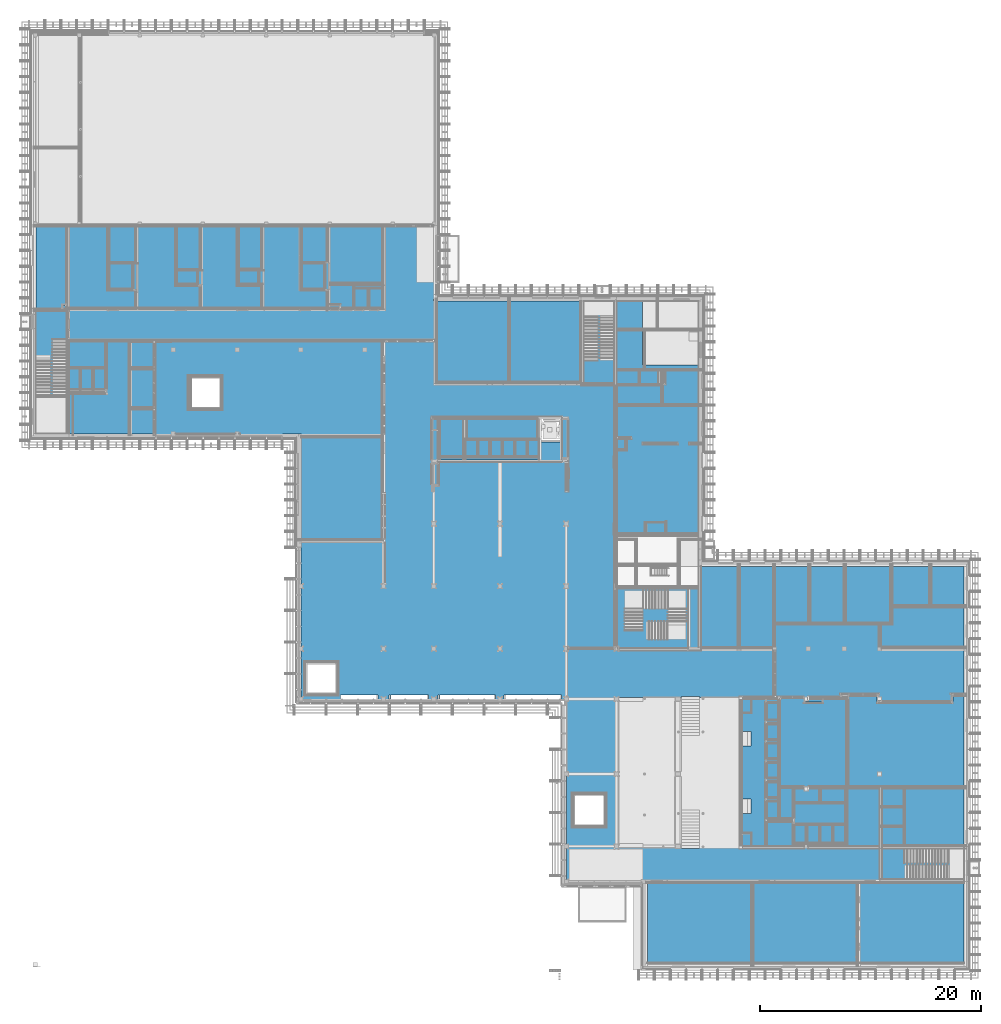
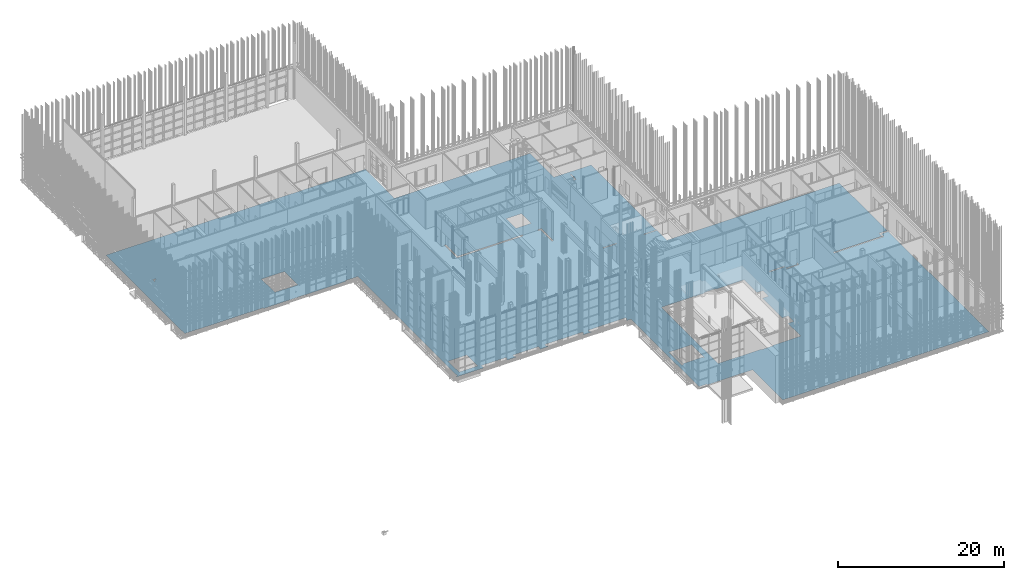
# One storey, part 164 of 260: 1 building element part, 1 element without a shape of its own.
"""IFC2X3 building model written with IfcOpenShell, lengths in millimetres."""

import ifcopenshell
import ifcopenshell.guid

model = None  # the IFC model being written
_history = None  # IfcOwnerHistory: only IFC2X3 demands one
_inside = {}  # id of a spatial element -> (the spatial element, [elements in it])
_under = {}  # id of a project, library or spatial element -> (it, [spatial elements below it])
_declared = {}  # id of a project -> (the project, [libraries it declares])
_typed = {}  # id of a type object -> (the type object, [elements of that type])
_made_of = {}  # id of a material, layer set ... -> (it, [elements and type objects made of it])


def new_model(schema):
    """Start an empty IFC model of exactly this schema.

    Asked for "IFC4X3", IfcOpenShell would pick the latest addendum, in which some entities
    have other attributes; the version numbers below select the first issue.
    IFC2X3 requires an IfcOwnerHistory on every rooted entity: one is made here for all.
    """
    global model, _history
    if schema == "IFC4X3":
        model = ifcopenshell.file(schema_version=(4, 3, 0, 0))
    else:
        model = ifcopenshell.file(schema=schema)
    _inside.clear()
    _under.clear()
    _declared.clear()
    _typed.clear()
    _made_of.clear()
    _history = None
    if model.schema == "IFC2X3":
        org = make("IfcOrganization", Name="unknown")
        user = make(
            "IfcPersonAndOrganization",
            ThePerson=make("IfcPerson", FamilyName="unknown"),
            TheOrganization=org,
        )
        app = make(
            "IfcApplication",
            ApplicationDeveloper=org,
            Version="unknown",
            ApplicationFullName="unknown",
            ApplicationIdentifier="unknown",
        )
        _history = make(
            "IfcOwnerHistory",
            OwningUser=user,
            OwningApplication=app,
            ChangeAction="ADDED",
            CreationDate=0,
        )
    return model


def make(cls, **values):
    """One entity of the class cls with the attributes given. An attribute that is None is left unset."""
    return model.create_entity(
        cls, **{name: value for name, value in values.items() if value is not None}
    )


def entity(cls, *values):
    """Any entity or typed value of the class cls, its attributes in the order of the schema. None: left unset."""
    e = model.create_entity(cls)
    for i, value in enumerate(values):
        if value is not None:
            e[i] = value
    return e


def rooted(cls, **values):
    """An entity with a GlobalId (a new one), such as an element, a storey or a relation."""
    return make(cls, GlobalId=ifcopenshell.guid.new(), OwnerHistory=_history, **values)


def si_unit(unit_type, name, prefix=None):
    """IfcSIUnit, for example si_unit("LENGTHUNIT", "METRE", prefix="MILLI")."""
    return make("IfcSIUnit", UnitType=unit_type, Prefix=prefix, Name=name)


def converted_unit(unit_type, name, factor, base, dimensions=None, offset=None):
    """IfcConversionBasedUnit, such as the inch: factor (a typed value) times the base unit."""
    return make(
        "IfcConversionBasedUnit"
        if offset is None
        else "IfcConversionBasedUnitWithOffset",
        ConversionOffset=offset,
        Dimensions=None
        if dimensions is None
        else entity("IfcDimensionalExponents", *dimensions),
        UnitType=unit_type,
        Name=name,
        ConversionFactor=make(
            "IfcMeasureWithUnit", ValueComponent=factor, UnitComponent=base
        ),
    )


def derived_unit(unit_type, elements):
    """IfcDerivedUnit: a product of units, each with its exponent."""
    return make(
        "IfcDerivedUnit",
        Elements=[
            make("IfcDerivedUnitElement", Unit=unit, Exponent=power)
            for unit, power in elements
        ],
        UnitType=unit_type,
    )


def money_unit(currency):
    """IfcMonetaryUnit."""
    return make("IfcMonetaryUnit", Currency=currency)


def assignment(units):
    """IfcUnitAssignment: the units of a project."""
    return None if units is None else make("IfcUnitAssignment", Units=units)


def point(xyz):
    """IfcCartesianPoint."""
    return None if xyz is None else make("IfcCartesianPoint", Coordinates=xyz)


def direction(xyz):
    """IfcDirection."""
    return None if xyz is None else make("IfcDirection", DirectionRatios=xyz)


def frame(location, z_axis=None, x_axis=None):
    """IfcAxis2Placement3D, a coordinate frame: its origin and axes. An axis left out is left unset."""
    return make(
        "IfcAxis2Placement3D",
        Location=point(location),
        Axis=direction(z_axis),
        RefDirection=direction(x_axis),
    )


def origin_with_axes():
    """The frame at (0, 0, 0) with the z axis (0, 0, 1) and the x axis (1, 0, 0) written out."""
    return frame((0.0, 0.0, 0.0), z_axis=(0.0, 0.0, 1.0), x_axis=(1.0, 0.0, 0.0))


def place(relative_to, where):
    """IfcLocalPlacement: puts the frame where relative to a parent placement (None: the world)."""
    return make(
        "IfcLocalPlacement", PlacementRelTo=relative_to, RelativePlacement=where
    )


def context(
    kind, dimensions, precision=None, world=None, true_north=None, identifier=None
):
    """IfcGeometricRepresentationContext, for example the 3D "Model" context."""
    return make(
        "IfcGeometricRepresentationContext",
        ContextIdentifier=identifier,
        ContextType=kind,
        CoordinateSpaceDimension=dimensions,
        Precision=precision,
        WorldCoordinateSystem=world,
        TrueNorth=true_north,
    )


def subcontext(parent, identifier, kind, view, scale=None):
    """IfcGeometricRepresentationSubContext, for example "Body" below "Model"."""
    return make(
        "IfcGeometricRepresentationSubContext",
        ContextIdentifier=identifier,
        ContextType=kind,
        ParentContext=parent,
        TargetScale=scale,
        TargetView=view,
    )


def project(units=None, contexts=None):
    """IfcProject with its units and contexts."""
    return rooted(
        "IfcProject",
        Name="project",
        RepresentationContexts=contexts,
        UnitsInContext=assignment(units),
    )


def spatial(cls, under=None, at=None, **own):
    """A site, building, storey or space (cls), placed at a placement, below another one or the project."""
    s = rooted(cls, ObjectPlacement=at, **own)
    if under is not None:
        _under.setdefault(under.id(), (under, []))[1].append(s)
    return s


def faces_of(points, faces, orient=None, outer=None):
    """IfcFace entities. A face is a list of loops; a loop is a list of indices into points, from 0.

    orient and outer hold one flag for each loop. By default every Orientation is true, the
    first loop of a face is its IfcFaceOuterBound and the others are IfcFaceBound.
    """
    made = []
    for i, loops in enumerate(faces):
        bounds = []
        for j, loop in enumerate(loops):
            is_outer = j == 0 if outer is None else outer[i][j]
            bounds.append(
                make(
                    "IfcFaceOuterBound" if is_outer else "IfcFaceBound",
                    Bound=make("IfcPolyLoop", Polygon=[points[k] for k in loop]),
                    Orientation=True if orient is None else orient[i][j],
                )
            )
        made.append(make("IfcFace", Bounds=bounds))
    return made


def faceted_brep(points, faces, orient=None, outer=None, voids=None):
    """IfcFacetedBrep: a solid bounded by flat faces; with voids (closed shells), ...WithVoids."""
    shared = [point(p) for p in points]
    hull = make("IfcClosedShell", CfsFaces=faces_of(shared, faces, orient, outer))
    if voids is None:
        return make("IfcFacetedBrep", Outer=hull)
    return make(
        "IfcFacetedBrepWithVoids",
        Outer=hull,
        Voids=[
            make(cls, CfsFaces=faces_of(shared, fs, o, b)) for cls, fs, o, b in voids
        ],
    )


def shape(context_of_items, identifier, shape_type, items):
    """IfcShapeRepresentation: the items that make up one representation, for example the "Body"."""
    return make(
        "IfcShapeRepresentation",
        ContextOfItems=context_of_items,
        RepresentationIdentifier=identifier,
        RepresentationType=shape_type,
        Items=items,
    )


def material(Name=None, Category=None):
    """IfcMaterial."""
    return make("IfcMaterial", Name=Name, Category=Category)


def made_of(thing, what):
    """Note that an element or type object is made of a material, layer set ...; save() writes the relation."""
    if what is not None:
        _made_of.setdefault(what.id(), (what, []))[1].append(thing)
    return thing


def type_object(cls, material=None, **own):
    """A type object (cls), such as IfcWallType, which elements share."""
    return made_of(rooted(cls, **own), material)


def element(
    cls,
    number,
    at=None,
    inside=None,
    cuts=None,
    type_object=None,
    material=None,
    context=None,
    identifier="Body",
    shape_type=None,
    held_by="IfcProductDefinitionShape",
    body=None,
    shapes=None,
    **own,
):
    """One element of the class cls, such as IfcWall. Its Tag is "e" and its number.

    at: its placement. inside: the storey or other place that contains it. cuts: it is an
    opening in that element (IfcRelVoidsElement). A single representation is given by context,
    identifier, shape_type and body (its items); several are given by shapes. held_by: the class
    of the entity that holds the representations. save() writes the other relations.
    """
    e = rooted(cls, Tag="e%d" % number, ObjectPlacement=at, **own)
    if body is not None:
        shapes = [shape(context, identifier, shape_type, body)]
    if shapes is not None:
        e.Representation = make(held_by, Representations=shapes)
    if inside is not None:
        _inside.setdefault(inside.id(), (inside, []))[1].append(e)
    if cuts is not None:
        rooted(
            "IfcRelVoidsElement", RelatingBuildingElement=cuts, RelatedOpeningElement=e
        )
    if type_object is not None:
        _typed.setdefault(type_object.id(), (type_object, []))[1].append(e)
    return made_of(e, material)


def aggregate(whole, parts):
    """IfcRelAggregates: a whole, such as a stair, and the parts it consists of."""
    return rooted("IfcRelAggregates", RelatingObject=whole, RelatedObjects=parts)


def save(model, path):
    """Write the relations noted so far, then the file.

    IfcRelAggregates (storeys below a building ...), IfcRelContainedInSpatialStructure (elements
    in a storey), IfcRelDefinesByType, IfcRelAssociatesMaterial and IfcRelDeclares: one each for
    every whole, place, type object, material and project.
    """
    for whole, parts in _under.values():
        aggregate(whole, parts)
    for where, things in _inside.values():
        rooted(
            "IfcRelContainedInSpatialStructure",
            RelatedElements=things,
            RelatingStructure=where,
        )
    for kind, things in _typed.values():
        rooted("IfcRelDefinesByType", RelatedObjects=things, RelatingType=kind)
    for what, things in _made_of.values():
        rooted("IfcRelAssociatesMaterial", RelatedObjects=things, RelatingMaterial=what)
    for by, libraries in _declared.values():
        rooted("IfcRelDeclares", RelatingContext=by, RelatedDefinitions=libraries)
    model.write(path)


model = new_model("IFC2X3")

# Units and contexts
model_context = context("Model", 3, precision=0.01, world=origin_with_axes(), true_north=direction((0.0, 1.0)))
body_context = subcontext(model_context, "Body", "Model", "MODEL_VIEW")
ifc_project = project(units=[si_unit("LENGTHUNIT", "METRE", prefix="MILLI"), si_unit("AREAUNIT", "SQUARE_METRE"), si_unit("VOLUMEUNIT", "CUBIC_METRE"), converted_unit("PLANEANGLEUNIT", "DEGREE", entity("IfcPlaneAngleMeasure", 0.0174532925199), si_unit("PLANEANGLEUNIT", "RADIAN"), dimensions=[0, 0, 0, 0, 0, 0, 0]), money_unit("EUR"), converted_unit("TIMEUNIT", "Year", entity("IfcTimeMeasure", 31556926.0), si_unit("TIMEUNIT", "SECOND"), dimensions=[0, 0, 1, 0, 0, 0, 0]), si_unit("MASSUNIT", "GRAM", prefix="KILO"), si_unit("THERMODYNAMICTEMPERATUREUNIT", "DEGREE_CELSIUS"), si_unit("LUMINOUSINTENSITYUNIT", "LUMEN"), si_unit("ENERGYUNIT", "JOULE", prefix="MEGA"), derived_unit("THERMALCONDUCTANCEUNIT", [(si_unit("POWERUNIT", "WATT"), 1), (si_unit("LENGTHUNIT", "METRE"), -1), (si_unit("THERMODYNAMICTEMPERATUREUNIT", "KELVIN"), -1)]), derived_unit("SPECIFICHEATCAPACITYUNIT", [(si_unit("ENERGYUNIT", "JOULE"), 1), (si_unit("MASSUNIT", "GRAM", prefix="KILO"), -1), (si_unit("THERMODYNAMICTEMPERATUREUNIT", "KELVIN"), -1)]), derived_unit("MASSDENSITYUNIT", [(si_unit("MASSUNIT", "GRAM", prefix="KILO"), 1), (si_unit("VOLUMEUNIT", "CUBIC_METRE"), -1)])], contexts=[model_context])

# Site, building, storey
site_placement = place(None, origin_with_axes())
site = spatial("IfcSite", under=ifc_project, at=site_placement, Name="Kolde pst 67a", CompositionType="ELEMENT")
building_placement = place(site_placement, origin_with_axes())
building = spatial("IfcBuilding", under=site, at=building_placement, Name="Riigigümnaasium", CompositionType="ELEMENT")
storey_placement = place(building_placement, origin_with_axes())
storey = spatial("IfcBuildingStorey", under=building, at=storey_placement, Name="1. korrus", CompositionType="ELEMENT", Elevation=0.0)

# Slab, building element part
slab_type = type_object("IfcSlabType", Name="PP-RBM-10/1_EPS 200 500", PredefinedType="NOTDEFINED")
slab_placement = place(storey_placement, frame((266.322784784, 67249.9971514, 0.0), z_axis=(0.0, 0.0, 1.0), x_axis=(1.0, 0.0, 0.0)))
slab = element("IfcSlab", 1, at=slab_placement, inside=storey, type_object=slab_type, Name="Põrand pinnasel", PredefinedType="NOTDEFINED")
ifc_material = material(Name="_ERALDUSKIHT - polüetüleenkile 0,2mm, vuugid ülekattega 200mm ja teibitud")
building_element_part_placement = place(slab_placement, origin_with_axes())
building_element_part = element("IfcBuildingElementPart", 2, at=building_element_part_placement, material=ifc_material, Name="_ERALDUSKIHT - polüetüleenkile 0,2mm, vuugid ülekattega 200mm ja teibitud", context=body_context, shape_type="Brep", body=[
    faceted_brep([(30816.9513198, -42649.7267552, -100.1), (27557.7759921, -42649.7267552, -100.1), (27557.7759921, -43209.7267572, -100.1), (23799.9457899, -43209.7267572, -100.1), (23799.9460972, -42999.9781126, -100.1), (23973.6799494, -42999.980095, -100.1), (23973.6799494, -29299.5005252, -100.1), (23999.9463759, -29299.500562, -100.1), (23999.9463759, -19050.0166275, -100.1), (22288.5650026, -19050.0163206, -100.1), (22288.5650026, -19210.0163206, -100.1), (10868.5385943, -19210.0163206, -100.1), (10868.5385943, -19050.0164764, -100.1), (2999.88406448, -19050.0165838, -100.1), (2999.88406628, -19009.9992035, -100.1), (0.0, -19010.7371507, -100.1), (0.0, 0.0, -100.1), (36039.9429015, 0.0, -100.1), (36039.9416319, -6809.99696703, -100.1), (35973.6764556, -6809.99696703, -100.1), (35973.6764556, -7009.99696703, -100.1), (54850.6592908, -7009.99696703, -100.1), (54850.6592908, -7059.99696539, -100.1), (54876.9257173, -7059.9969654, -100.1), (54876.9257173, -12779.9970931, -100.1), (59999.9377357, -12779.9970931, -100.1), (59999.9377357, -28530.0163168, -100.1), (58263.6260919, -28530.0163175, -100.1), (58263.6260919, -28630.0163179, -100.1), (59999.9377357, -28630.0163184, -100.1), (59999.9377357, -31009.9974516, -100.1), (83973.6765431, -31009.9974516, -100.1), (83973.6765431, -42534.9971792, -100.1), (82763.6792783, -42534.9971792, -100.1), (82763.6792783, -42564.9971792, -100.1), (82768.6792783, -42564.9971792, -100.1), (82768.6792783, -42579.9971792, -100.1), (82783.6792783, -42579.9971792, -100.1), (82783.6792783, -42594.9971792, -100.1), (82808.6792783, -42594.9971792, -100.1), (82808.6792783, -42694.9971792, -100.1), (82808.6792783, -43249.8990371, -100.1), (76313.6792783, -43249.8990371, -100.1), (76313.6792783, -43204.8990393, -100.1), (76113.6792783, -43204.8990393, -100.1), (76113.6792783, -42809.9971787, -100.1), (76268.6798861, -42809.9971787, -100.1), (76268.6798861, -42594.9971792, -100.1), (76278.6798861, -42594.9971792, -100.1), (76278.6798861, -42579.9971792, -100.1), (76293.6798861, -42579.9971792, -100.1), (76293.6798861, -42564.9971792, -100.1), (76313.6798861, -42564.9971792, -100.1), (76313.6798861, -42534.9971792, -100.1), (72749.2149042, -42534.9971792, -100.1), (72749.2148941, -42554.9971792, -100.1), (72749.2147712, -42799.9969998, -100.1), (72909.2147712, -42799.9970801, -100.1), (72909.2148239, -42694.9971792, -100.1), (73493.6767943, -42694.9971792, -100.1), (73493.6767453, -43009.9970854, -100.1), (73513.6767453, -43009.9970885, -100.1), (73513.6767905, -42754.9971792, -100.1), (76113.679724, -42754.9971792, -100.1), (76113.6792783, -42809.9971787, -100.1), (76093.6792783, -42809.9971787, -100.1), (76093.6792783, -43384.8990371, -100.1), (76093.6792783, -43404.8990371, -100.1), (82943.6792783, -43404.8990371, -100.1), (82963.6792783, -43404.8990371, -100.1), (82963.6792783, -42754.9971792, -100.1), (83973.6765431, -42754.9971792, -100.1), (83973.6765431, -67009.9971514, -100.1), (55329.9241436, -67009.9971514, -100.1), (55329.9251795, -59729.9852703, -100.1), (49105.2284207, -59729.9962674, -100.1), (49105.2303604, -59560.0076119, -100.1), (47983.4761046, -59559.9948118, -100.1), (47983.6626713, -43209.9991185, -100.1), (47799.9291214, -43209.9971514, -100.1), (47436.9477703, -43209.9971514, -100.1), (47436.9477703, -42989.9933365, -100.1), (47560.6775752, -42989.9947483, -100.1), (47560.6814579, -42649.7284668, -100.1), (47436.9477703, -42649.7267552, -100.1), (42530.9379731, -42649.7267552, -100.1), (42530.9379731, -43209.9971514, -100.1), (41436.9477703, -43209.9971514, -100.1), (41436.9477703, -43000.1793652, -100.1), (41560.6813438, -43000.1807771, -100.1), (41560.6813438, -42649.7267552, -100.1), (41436.9477703, -42649.7267552, -100.1), (36532.9379731, -42649.7267552, -100.1), (36532.9379731, -43209.7267557, -100.1), (35366.9477703, -43209.7267557, -100.1), (35366.9477703, -43000.1101015, -100.1), (35490.6813438, -43000.1115134, -100.1), (35490.6813438, -42649.7267552, -100.1), (35366.9477703, -42649.7267552, -100.1), (32102.9415226, -42649.7267552, -100.1), (32102.9415226, -43209.7267557, -100.1), (30816.9513198, -43209.7267557, -100.1), (30816.9513198, -43000.0581823, -100.1), (30940.6848933, -43000.0595942, -100.1), (30940.6848933, -42649.7267552, -100.1), (67384.5647071, -42934.9971787, -100.1), (69483.6765035, -42934.9971787, -100.1), (69483.6765035, -42834.9971787, -100.1), (67384.5647071, -42834.9971787, -100.1), (69608.6765035, -43289.8971581, -100.1), (69608.6765035, -43209.9971787, -100.1), (69508.6765035, -43209.9971787, -100.1), (69508.6765035, -43289.8971581, -100.1), (69508.6765035, -43389.8971581, -100.1), (71093.6765035, -43389.8971581, -100.1), (71193.6765035, -43389.8971581, -100.1), (71193.6765035, -43014.7452063, -100.1), (71093.6765035, -43014.7452063, -100.1), (71093.6765035, -43289.8971581, -100.1), (56941.1713262, -14533.7381503, -100.1), (56941.1713262, -13331.4970931, -100.1), (56841.1713262, -13331.4970931, -100.1), (56841.1713262, -14433.7381503, -100.1), (56563.6713262, -14433.7381503, -100.1), (56563.6713262, -14533.7381503, -100.1), (56841.1713262, -14533.7381503, -100.1), (52563.6713374, -28636.1294344, -100.1), (54397.3960326, -28636.1294339, -100.1), (54397.3960326, -28536.1294355, -100.1), (52563.6713374, -28536.1294346, -100.1), (52446.6713373, -33099.9971785, -100.1), (52343.6713358, -33099.9971785, -100.1), (52343.6713358, -32599.9971785, -100.1), (52323.6713358, -32599.9971785, -100.1), (52323.6713358, -33119.9971785, -100.1), (52343.6713358, -33119.9971785, -100.1), (52466.6713373, -33119.9971785, -100.1), (52466.6713373, -33099.9971785, -100.1), (52466.6713373, -33019.9971785, -100.1), (52446.6713373, -33019.9971785, -100.1), (58908.7339847, -38629.9974954, -100.1), (59013.7339847, -38629.9974954, -100.1), (59013.7339847, -38555.9974954, -100.1), (58908.7339847, -38555.9974954, -100.1), (58403.6261108, -42799.727851, -100.1), (58403.6261108, -42900.0006175, -100.1), (52419.9377639, -42900.0006175, -100.1), (52419.9377639, -56470.0352098, -100.1), (58403.6261108, -56470.0352098, -100.1), (58403.6261108, -56560.0372612, -100.1), (60043.6261108, -56560.0372612, -100.1), (60043.6261108, -56470.0352098, -100.1), (63889.4805108, -56470.0352098, -100.1), (63889.4805108, -53380.0354382, -100.1), (64699.9316408, -53380.0110601, -100.1), (64699.8925374, -52080.0108444, -100.1), (63889.4805108, -52080.0352212, -100.1), (63889.4796994, -47279.9474523, -100.1), (64699.838281, -47279.923078, -100.1), (64699.7991789, -45979.9659208, -100.1), (63889.4795044, -45979.9902948, -100.1), (63889.4805108, -42900.0006175, -100.1), (60043.6261108, -42900.0006175, -100.1), (60043.6261108, -42799.727851, -100.1), (45534.9291024, -17479.9971915, -100.1), (45534.9291024, -19779.9971915, -100.1), (47634.9291054, -19779.9971915, -100.1), (47634.9291054, -17479.9971915, -100.1), (48173.6626813, -21579.9971911, -100.1), (48173.6626813, -21379.997192, -100.1), (47608.6626759, -21379.9971915, -100.1), (47608.6626759, -21579.9971915, -100.1), (48158.6626813, -24264.9971915, -100.1), (48158.6626813, -21594.9971915, -100.1), (47958.6626813, -21594.9971915, -100.1), (47958.6626813, -24264.9971915, -100.1), (42354.6715466, -43000.1898371, -100.1), (42504.6715466, -43000.1915488, -100.1), (42504.6715466, -42649.7267552, -100.1), (42354.6715466, -42649.7267552, -100.1), (51611.6670287, -51502.0161939, -100.1), (48485.6670287, -51502.0161939, -100.1), (48475.6670287, -51502.0161939, -100.1), (48475.6670287, -54648.0161939, -100.1), (48485.6670287, -54648.0161939, -100.1), (48485.6670287, -54638.0161939, -100.1), (48585.6670287, -54638.0161939, -100.1), (48585.6670287, -54538.0161939, -100.1), (48588.6670287, -54538.0161939, -100.1), (48588.6670287, -54535.0161939, -100.1), (48748.6670287, -54535.0161939, -100.1), (48748.6670287, -51775.0161939, -100.1), (48774.9334552, -51775.0161939, -100.1), (48774.9334552, -54375.0161939, -100.1), (51374.9334552, -54375.0161939, -100.1), (51508.6670287, -54375.0161939, -100.1), (51508.6670287, -54535.0161939, -100.1), (51511.6670287, -54535.0161939, -100.1), (51511.6670287, -54538.0161939, -100.1), (51611.6670287, -54538.0161939, -100.1), (51611.6670287, -54638.0161939, -100.1), (51621.6670287, -54638.0161939, -100.1), (51621.6670287, -51502.0161939, -100.1), (2773.71489861, -7389.99920353, -100.1), (2773.71489861, -7289.99920353, -100.1), (2433.61489861, -7289.99920353, -100.1), (2333.61489861, -7289.99920353, -100.1), (2333.61489861, -7689.99920353, -100.1), (2433.61489861, -7689.99920353, -100.1), (2433.61489861, -7389.99920353, -100.1), (45508.6626759, -21379.9971915, -100.1), (36538.6764452, -21379.9971915, -100.1), (36538.6764452, -18569.9968148, -100.1), (36338.6764452, -18569.9968148, -100.1), (36338.6764452, -21579.9971915, -100.1), (45508.6626759, -21579.9971915, -100.1), (13725.6777342, -13742.0095232, -100.1), (13725.6777342, -16888.0095232, -100.1), (13735.6777342, -16888.0095232, -100.1), (16871.6777342, -16888.0095232, -100.1), (16871.6777342, -16878.0095232, -100.1), (16871.6777342, -13742.0095232, -100.1), (16861.6777342, -13742.0095232, -100.1), (13735.6777342, -13742.0095232, -100.1), (24550.0004112, -42459.9971514, -100.1), (27150.0004112, -42459.9971514, -100.1), (27150.0004112, -39859.9971514, -100.1), (24550.0004112, -39859.9971514, -100.1), (36506.6715466, -43000.1231067, -100.1), (36506.6715466, -42649.7267552, -100.1), (36356.6715466, -42649.7267552, -100.1), (36356.6715466, -43000.1213951, -100.1), (32076.6750961, -43000.0725568, -100.1), (32076.6750961, -42649.7267552, -100.1), (31926.6750961, -42649.7267552, -100.1), (31926.6750961, -43000.0708452, -100.1), (27531.5095656, -43000.0206928, -100.1), (27531.5095656, -42650.2966921, -100.099980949), (27531.5095656, -42649.7267552, -100.099981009), (27381.5095656, -42649.7267552, -100.099981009), (27381.5095656, -42650.2966921, -100.099980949), (27381.5095656, -43000.0189812, -100.1), (30816.9513198, -42649.7267552, -100.0), (27557.7759921, -42649.7267552, -100.0), (27557.7759921, -43209.7267572, -100.0), (23799.9457899, -43209.7267572, -100.0), (23799.9460972, -42999.9781126, -100.0), (23973.6799494, -42999.980095, -100.0), (23973.6799494, -29299.5005252, -100.0), (23999.9463759, -29299.500562, -100.0), (23999.9463759, -19050.0166275, -100.0), (22288.5650026, -19050.0163206, -100.0), (22288.5650026, -19210.0163206, -100.0), (10868.5385943, -19210.0163206, -100.0), (10868.5385943, -19050.0164764, -100.0), (2999.88406448, -19050.0165838, -100.0), (2999.88406628, -19009.9992035, -100.0), (0.0, -19010.7371507, -100.0), (0.0, 0.0, -100.0), (36039.9429015, 0.0, -100.0), (36039.9416319, -6809.99696703, -100.0), (35973.6764556, -6809.99696703, -100.0), (35973.6764556, -7009.99696703, -100.0), (54850.6592908, -7009.99696703, -100.0), (54850.6592908, -7059.99696539, -100.0), (54876.9257173, -7059.9969654, -100.0), (54876.9257173, -12779.9970931, -100.0), (59999.9377357, -12779.9970931, -100.0), (59999.9377357, -28530.0163168, -100.0), (58263.6260919, -28530.0163175, -100.0), (58263.6260919, -28630.0163179, -100.0), (59999.9377357, -28630.0163184, -100.0), (59999.9377357, -31009.9974516, -100.0), (83973.6765431, -31009.9974516, -100.0), (83973.6765431, -42534.9971792, -100.0), (82763.6792783, -42534.9971792, -100.0), (82763.6792783, -42564.9971792, -100.0), (82768.6792783, -42564.9971792, -100.0), (82768.6792783, -42579.9971792, -100.0), (82783.6792783, -42579.9971792, -100.0), (82783.6792783, -42594.9971792, -100.0), (82808.6792783, -42594.9971792, -100.0), (82808.6792783, -42694.9971792, -100.0), (82808.6792783, -43249.8990371, -100.0), (76313.6792783, -43249.8990371, -100.0), (76313.6792783, -43204.8990393, -100.0), (76113.6792783, -43204.8990393, -100.0), (76113.6792783, -42809.9971787, -100.0), (76268.6798861, -42809.9971787, -100.0), (76268.6798861, -42594.9971792, -100.0), (76278.6798861, -42594.9971792, -100.0), (76278.6798861, -42579.9971792, -100.0), (76293.6798861, -42579.9971792, -100.0), (76293.6798861, -42564.9971792, -100.0), (76313.6798861, -42564.9971792, -100.0), (76313.6798861, -42534.9971792, -100.0), (72749.2149042, -42534.9971792, -100.0), (72749.2148941, -42554.9971792, -100.0), (72749.2147712, -42799.9969998, -100.0), (72909.2147712, -42799.9970801, -100.0), (72909.2148239, -42694.9971792, -100.0), (73493.6767943, -42694.9971792, -100.0), (73493.6767453, -43009.9970854, -100.0), (73513.6767453, -43009.9970885, -100.0), (73513.6767905, -42754.9971792, -100.0), (76113.679724, -42754.9971792, -100.0), (76113.6792783, -42809.9971787, -100.0), (76093.6792783, -42809.9971787, -100.0), (76093.6792783, -43384.8990371, -100.0), (76093.6792783, -43404.8990371, -100.0), (82943.6792783, -43404.8990371, -100.0), (82963.6792783, -43404.8990371, -100.0), (82963.6792783, -42754.9971792, -100.0), (83973.6765431, -42754.9971792, -100.0), (83973.6765431, -67009.9971514, -100.0), (55329.9241436, -67009.9971514, -100.0), (55329.9251795, -59729.9852703, -100.0), (49105.2284207, -59729.9962674, -100.0), (49105.2303604, -59560.0076119, -100.0), (47983.4761046, -59559.9948118, -100.0), (47983.6626713, -43209.9991185, -100.0), (47799.9291214, -43209.9971514, -100.0), (47436.9477703, -43209.9971514, -100.0), (47436.9477703, -42989.9933365, -100.0), (47560.6775752, -42989.9947483, -100.0), (47560.6814579, -42649.7284668, -100.0), (47436.9477703, -42649.7267552, -100.0), (42530.9379731, -42649.7267552, -100.0), (42530.9379731, -43209.9971514, -100.0), (41436.9477703, -43209.9971514, -100.0), (41436.9477703, -43000.1793652, -100.0), (41560.6813438, -43000.1807771, -100.0), (41560.6813438, -42649.7267552, -100.0), (41436.9477703, -42649.7267552, -100.0), (36532.9379731, -42649.7267552, -100.0), (36532.9379731, -43209.7267557, -100.0), (35366.9477703, -43209.7267557, -100.0), (35366.9477703, -43000.1101015, -100.0), (35490.6813438, -43000.1115134, -100.0), (35490.6813438, -42649.7267552, -100.0), (35366.9477703, -42649.7267552, -100.0), (32102.9415226, -42649.7267552, -100.0), (32102.9415226, -43209.7267557, -100.0), (30816.9513198, -43209.7267557, -100.0), (30816.9513198, -43000.0581823, -100.0), (30940.6848933, -43000.0595942, -100.0), (30940.6848933, -42649.7267552, -100.0), (67384.5647071, -42934.9971787, -100.0), (69483.6765035, -42934.9971787, -100.0), (69483.6765035, -42834.9971787, -100.0), (67384.5647071, -42834.9971787, -100.0), (69608.6765035, -43289.8971581, -100.0), (69608.6765035, -43209.9971787, -100.0), (69508.6765035, -43209.9971787, -100.0), (69508.6765035, -43289.8971581, -100.0), (69508.6765035, -43389.8971581, -100.0), (71093.6765035, -43389.8971581, -100.0), (71193.6765035, -43389.8971581, -100.0), (71193.6765035, -43014.7452063, -100.0), (71093.6765035, -43014.7452063, -100.0), (71093.6765035, -43289.8971581, -100.0), (56941.1713262, -14533.7381503, -100.0), (56941.1713262, -13331.4970931, -100.0), (56841.1713262, -13331.4970931, -100.0), (56841.1713262, -14433.7381503, -100.0), (56563.6713262, -14433.7381503, -100.0), (56563.6713262, -14533.7381503, -100.0), (56841.1713262, -14533.7381503, -100.0), (52563.6713374, -28636.1294344, -100.0), (54397.3960326, -28636.1294339, -100.0), (54397.3960326, -28536.1294355, -100.0), (52563.6713374, -28536.1294346, -100.0), (52446.6713373, -33099.9971785, -100.0), (52343.6713358, -33099.9971785, -100.0), (52343.6713358, -32599.9971785, -100.0), (52323.6713358, -32599.9971785, -100.0), (52323.6713358, -33119.9971785, -100.0), (52343.6713358, -33119.9971785, -100.0), (52466.6713373, -33119.9971785, -100.0), (52466.6713373, -33099.9971785, -100.0), (52466.6713373, -33019.9971785, -100.0), (52446.6713373, -33019.9971785, -100.0), (58908.7339847, -38629.9974954, -100.0), (59013.7339847, -38629.9974954, -100.0), (59013.7339847, -38555.9974954, -100.0), (58908.7339847, -38555.9974954, -100.0), (58403.6261108, -42799.727851, -100.0), (58403.6261108, -42900.0006175, -100.0), (52419.9377639, -42900.0006175, -100.0), (52419.9377639, -56470.0352098, -100.0), (58403.6261108, -56470.0352098, -100.0), (58403.6261108, -56560.0372612, -100.0), (60043.6261108, -56560.0372612, -100.0), (60043.6261108, -56470.0352098, -100.0), (63889.4805108, -56470.0352098, -100.0), (63889.4805108, -53380.0354382, -100.0), (64699.9316408, -53380.0110601, -100.0), (64699.8925374, -52080.0108444, -100.0), (63889.4805108, -52080.0352212, -100.0), (63889.4796994, -47279.9474523, -100.0), (64699.838281, -47279.923078, -100.0), (64699.7991789, -45979.9659208, -100.0), (63889.4795044, -45979.9902948, -100.0), (63889.4805108, -42900.0006175, -100.0), (60043.6261108, -42900.0006175, -100.0), (60043.6261108, -42799.727851, -100.0), (45534.9291024, -17479.9971915, -100.0), (45534.9291024, -19779.9971915, -100.0), (47634.9291054, -19779.9971915, -100.0), (47634.9291054, -17479.9971915, -100.0), (48173.6626813, -21579.9971911, -100.0), (48173.6626813, -21379.997192, -100.0), (47608.6626759, -21379.9971915, -100.0), (47608.6626759, -21579.9971915, -100.0), (48158.6626813, -24264.9971915, -100.0), (48158.6626813, -21594.9971915, -100.0), (47958.6626813, -21594.9971915, -100.0), (47958.6626813, -24264.9971915, -100.0), (42354.6715466, -43000.1898371, -100.0), (42504.6715466, -43000.1915488, -100.0), (42504.6715466, -42649.7267552, -100.0), (42354.6715466, -42649.7267552, -100.0), (51611.6670287, -51502.0161939, -100.0), (48485.6670287, -51502.0161939, -100.0), (48475.6670287, -51502.0161939, -100.0), (48475.6670287, -54648.0161939, -100.0), (48485.6670287, -54648.0161939, -100.0), (48485.6670287, -54638.0161939, -100.0), (48585.6670287, -54638.0161939, -100.0), (48585.6670287, -54538.0161939, -100.0), (48588.6670287, -54538.0161939, -100.0), (48588.6670287, -54535.0161939, -100.0), (48748.6670287, -54535.0161939, -100.0), (48748.6670287, -51775.0161939, -100.0), (48774.9334552, -51775.0161939, -100.0), (48774.9334552, -54375.0161939, -100.0), (51374.9334552, -54375.0161939, -100.0), (51508.6670287, -54375.0161939, -100.0), (51508.6670287, -54535.0161939, -100.0), (51511.6670287, -54535.0161939, -100.0), (51511.6670287, -54538.0161939, -100.0), (51611.6670287, -54538.0161939, -100.0), (51611.6670287, -54638.0161939, -100.0), (51621.6670287, -54638.0161939, -100.0), (51621.6670287, -51502.0161939, -100.0), (2773.71489861, -7389.99920353, -100.0), (2773.71489861, -7289.99920353, -100.0), (2433.61489861, -7289.99920353, -100.0), (2333.61489861, -7289.99920353, -100.0), (2333.61489861, -7689.99920353, -100.0), (2433.61489861, -7689.99920353, -100.0), (2433.61489861, -7389.99920353, -100.0), (45508.6626759, -21379.9971915, -100.0), (36538.6764452, -21379.9971915, -100.0), (36538.6764452, -18569.9968148, -100.0), (36338.6764452, -18569.9968148, -100.0), (36338.6764452, -21579.9971915, -100.0), (45508.6626759, -21579.9971915, -100.0), (13725.6777342, -13742.0095232, -100.0), (13725.6777342, -16888.0095232, -100.0), (13735.6777342, -16888.0095232, -100.0), (16871.6777342, -16888.0095232, -100.0), (16871.6777342, -16878.0095232, -100.0), (16871.6777342, -13742.0095232, -100.0), (16861.6777342, -13742.0095232, -100.0), (13735.6777342, -13742.0095232, -100.0), (24550.0004112, -42459.9971514, -100.0), (27150.0004112, -42459.9971514, -100.0), (27150.0004112, -39859.9971514, -100.0), (24550.0004112, -39859.9971514, -100.0), (36506.6715466, -43000.1231067, -100.0), (36506.6715466, -42649.7267552, -100.0), (36356.6715466, -42649.7267552, -100.0), (36356.6715466, -43000.1213951, -100.0), (32076.6750961, -43000.0725568, -100.0), (32076.6750961, -42649.7267552, -100.0), (31926.6750961, -42649.7267552, -100.0), (31926.6750961, -43000.0708452, -100.0), (27531.5095656, -43000.0206928, -100.0), (27531.5095656, -42649.7267552, -100.0), (27381.5095656, -42649.7267552, -100.0), (27381.5095656, -43000.0189812, -100.0)], [[[0, 1, 2, 3, 4, 5, 6, 7, 8, 9, 10, 11, 12, 13, 14, 15, 16, 17, 18, 19, 20, 21, 22, 23, 24, 25, 26, 27, 28, 29, 30, 31, 32, 33, 34, 35, 36, 37, 38, 39, 40, 41, 42, 43, 44, 45, 46, 47, 48, 49, 50, 51, 52, 53, 54, 55, 56, 57, 58, 59, 60, 61, 62, 63, 64, 65, 66, 67, 68, 69, 70, 71, 72, 73, 74, 75, 76, 77, 78, 79, 80, 81, 82, 83, 84, 85, 86, 87, 88, 89, 90, 91, 92, 93, 94, 95, 96, 97, 98, 99, 100, 101, 102, 103, 104], [105, 106, 107, 108], [109, 110, 111, 112, 113, 114, 115, 116, 117, 118], [119, 120, 121, 122, 123, 124, 125], [126, 127, 128, 129], [130, 131, 132, 133, 134, 135, 136, 137, 138, 139], [140, 141, 142, 143], [144, 145, 146, 147, 148, 149, 150, 151, 152, 153, 154, 155, 156, 157, 158, 159, 160, 161, 162, 163], [164, 165, 166, 167], [168, 169, 170, 171], [172, 173, 174, 175], [176, 177, 178, 179], [180, 181, 182, 183, 184, 185, 186, 187, 188, 189, 190, 191, 192, 193, 194, 195, 196, 197, 198, 199, 200, 201, 202], [203, 204, 205, 206, 207, 208, 209], [210, 211, 212, 213, 214, 215], [216, 217, 218, 219, 220, 221, 222, 223], [224, 225, 226, 227], [228, 229, 230, 231], [232, 233, 234, 235], [236, 237, 238, 239, 240, 241]], [[0, 242, 243, 1]], [[1, 243, 244, 2]], [[2, 244, 245, 3]], [[3, 245, 246, 4]], [[4, 246, 247, 5]], [[247, 248, 6, 5]], [[6, 248, 249, 7]], [[7, 249, 250, 8]], [[8, 250, 251, 9]], [[9, 251, 252, 10]], [[10, 252, 253, 11]], [[11, 253, 254, 12]], [[12, 254, 255, 13]], [[13, 255, 256, 14]], [[14, 256, 257, 15]], [[257, 258, 16, 15]], [[16, 258, 259, 17]], [[17, 259, 260, 18]], [[18, 260, 261, 19]], [[19, 261, 262, 20]], [[262, 263, 21, 20]], [[21, 263, 264, 22]], [[22, 264, 265, 23]], [[23, 265, 266, 24]], [[24, 266, 267, 25]], [[25, 267, 268, 26]], [[26, 268, 269, 27]], [[28, 27, 269, 270]], [[28, 270, 271, 29]], [[29, 271, 272, 30]], [[272, 273, 31, 30]], [[31, 273, 274, 32]], [[32, 274, 275, 33]], [[33, 275, 276, 34]], [[34, 276, 277, 35]], [[35, 277, 278, 36]], [[36, 278, 279, 37]], [[38, 37, 279, 280]], [[38, 280, 281, 39]], [[39, 281, 282, 40]], [[41, 40, 282, 283]], [[41, 283, 284, 42]], [[284, 285, 43, 42]], [[43, 285, 286, 44]], [[44, 286, 287, 45]], [[45, 287, 288, 46]], [[46, 288, 289, 47]], [[47, 289, 290, 48]], [[290, 291, 49, 48]], [[49, 291, 292, 50]], [[50, 292, 293, 51]], [[51, 293, 294, 52]], [[52, 294, 295, 53]], [[53, 295, 296, 54]], [[54, 296, 297, 55]], [[56, 55, 297, 298]], [[56, 298, 299, 57]], [[57, 299, 300, 58]], [[58, 300, 301, 59]], [[59, 301, 302, 60]], [[60, 302, 303, 61]], [[61, 303, 304, 62]], [[62, 304, 305, 63]], [[63, 305, 306, 64]], [[64, 306, 307, 65]], [[66, 65, 307, 308]], [[66, 308, 309, 67]], [[67, 309, 310, 68]], [[68, 310, 311, 69]], [[311, 312, 70, 69]], [[70, 312, 313, 71]], [[72, 71, 313, 314]], [[73, 72, 314, 315]], [[73, 315, 316, 74]], [[74, 316, 317, 75]], [[75, 317, 318, 76]], [[76, 318, 319, 77]], [[319, 320, 78, 77]], [[78, 320, 321, 79]], [[79, 321, 322, 80]], [[322, 323, 81, 80]], [[81, 323, 324, 82]], [[82, 324, 325, 83]], [[83, 325, 326, 84]], [[84, 326, 327, 85]], [[85, 327, 328, 86]], [[86, 328, 329, 87]], [[87, 329, 330, 88]], [[88, 330, 331, 89]], [[89, 331, 332, 90]], [[90, 332, 333, 91]], [[91, 333, 334, 92]], [[92, 334, 335, 93]], [[94, 93, 335, 336]], [[94, 336, 337, 95]], [[95, 337, 338, 96]], [[96, 338, 339, 97]], [[97, 339, 340, 98]], [[98, 340, 341, 99]], [[99, 341, 342, 100]], [[100, 342, 343, 101]], [[101, 343, 344, 102]], [[102, 344, 345, 103]], [[345, 346, 104, 103]], [[104, 346, 242, 0]], [[105, 347, 348, 106]], [[348, 349, 107, 106]], [[107, 349, 350, 108]], [[108, 350, 347, 105]], [[109, 351, 352, 110]], [[110, 352, 353, 111]], [[111, 353, 354, 112]], [[112, 354, 355, 113]], [[113, 355, 356, 114]], [[114, 356, 357, 115]], [[357, 358, 116, 115]], [[116, 358, 359, 117]], [[118, 117, 359, 360]], [[118, 360, 351, 109]], [[119, 361, 362, 120]], [[120, 362, 363, 121]], [[121, 363, 364, 122]], [[122, 364, 365, 123]], [[123, 365, 366, 124]], [[124, 366, 367, 125]], [[125, 367, 361, 119]], [[126, 368, 369, 127]], [[127, 369, 370, 128]], [[128, 370, 371, 129]], [[129, 371, 368, 126]], [[130, 372, 373, 131]], [[131, 373, 374, 132]], [[132, 374, 375, 133]], [[133, 375, 376, 134]], [[134, 376, 377, 135]], [[135, 377, 378, 136]], [[136, 378, 379, 137]], [[137, 379, 380, 138]], [[138, 380, 381, 139]], [[139, 381, 372, 130]], [[140, 382, 383, 141]], [[141, 383, 384, 142]], [[142, 384, 385, 143]], [[143, 385, 382, 140]], [[144, 386, 387, 145]], [[145, 387, 388, 146]], [[147, 146, 388, 389]], [[147, 389, 390, 148]], [[148, 390, 391, 149]], [[149, 391, 392, 150]], [[150, 392, 393, 151]], [[151, 393, 394, 152]], [[152, 394, 395, 153]], [[395, 396, 154, 153]], [[154, 396, 397, 155]], [[156, 155, 397, 398]], [[398, 399, 157, 156]], [[157, 399, 400, 158]], [[158, 400, 401, 159]], [[159, 401, 402, 160]], [[160, 402, 403, 161]], [[161, 403, 404, 162]], [[162, 404, 405, 163]], [[163, 405, 386, 144]], [[164, 406, 407, 165]], [[165, 407, 408, 166]], [[166, 408, 409, 167]], [[167, 409, 406, 164]], [[410, 411, 169, 168]], [[169, 411, 412, 170]], [[171, 170, 412, 413]], [[171, 413, 410, 168]], [[172, 414, 415, 173]], [[173, 415, 416, 174]], [[174, 416, 417, 175]], [[175, 417, 414, 172]], [[176, 418, 419, 177]], [[177, 419, 420, 178]], [[178, 420, 421, 179]], [[179, 421, 418, 176]], [[180, 422, 423, 181]], [[181, 423, 424, 182]], [[183, 182, 424, 425]], [[183, 425, 426, 184]], [[184, 426, 427, 185]], [[185, 427, 428, 186]], [[186, 428, 429, 187]], [[187, 429, 430, 188]], [[188, 430, 431, 189]], [[189, 431, 432, 190]], [[190, 432, 433, 191]], [[191, 433, 434, 192]], [[192, 434, 435, 193]], [[193, 435, 436, 194]], [[194, 436, 437, 195]], [[195, 437, 438, 196]], [[196, 438, 439, 197]], [[197, 439, 440, 198]], [[198, 440, 441, 199]], [[199, 441, 442, 200]], [[200, 442, 443, 201]], [[201, 443, 444, 202]], [[202, 444, 422, 180]], [[203, 445, 446, 204]], [[204, 446, 447, 205]], [[205, 447, 448, 206]], [[206, 448, 449, 207]], [[207, 449, 450, 208]], [[208, 450, 451, 209]], [[209, 451, 445, 203]], [[210, 452, 453, 211]], [[211, 453, 454, 212]], [[213, 212, 454, 455]], [[213, 455, 456, 214]], [[456, 457, 215, 214]], [[457, 452, 210, 215]], [[216, 458, 459, 217]], [[217, 459, 460, 218]], [[218, 460, 461, 219]], [[219, 461, 462, 220]], [[220, 462, 463, 221]], [[221, 463, 464, 222]], [[222, 464, 465, 223]], [[223, 465, 458, 216]], [[224, 466, 467, 225]], [[225, 467, 468, 226]], [[226, 468, 469, 227]], [[227, 469, 466, 224]], [[470, 471, 229, 228]], [[229, 471, 472, 230]], [[231, 230, 472, 473]], [[231, 473, 470, 228]], [[474, 475, 233, 232]], [[233, 475, 476, 234]], [[235, 234, 476, 477]], [[235, 477, 474, 232]], [[478, 479, 238, 237, 236]], [[479, 480, 239, 238]], [[480, 481, 241, 240, 239]], [[481, 478, 236, 241]], [[248, 247, 246, 245, 244, 243, 242, 346, 345, 344, 343, 342, 341, 340, 339, 338, 337, 336, 335, 334, 333, 332, 331, 330, 329, 328, 327, 326, 325, 324, 323, 322, 321, 320, 319, 318, 317, 316, 315, 314, 313, 312, 311, 310, 309, 308, 307, 306, 305, 304, 303, 302, 301, 300, 299, 298, 297, 296, 295, 294, 293, 292, 291, 290, 289, 288, 287, 286, 285, 284, 283, 282, 281, 280, 279, 278, 277, 276, 275, 274, 273, 272, 271, 270, 269, 268, 267, 266, 265, 264, 263, 262, 261, 260, 259, 258, 257, 256, 255, 254, 253, 252, 251, 250, 249], [348, 347, 350, 349], [358, 357, 356, 355, 354, 353, 352, 351, 360, 359], [364, 363, 362, 361, 367, 366, 365], [369, 368, 371, 370], [377, 376, 375, 374, 373, 372, 381, 380, 379, 378], [382, 385, 384, 383], [393, 392, 391, 390, 389, 388, 387, 386, 405, 404, 403, 402, 401, 400, 399, 398, 397, 396, 395, 394], [408, 407, 406, 409], [413, 412, 411, 410], [417, 416, 415, 414], [421, 420, 419, 418], [429, 428, 427, 426, 425, 424, 423, 422, 444, 443, 442, 441, 440, 439, 438, 437, 436, 435, 434, 433, 432, 431, 430], [447, 446, 445, 451, 450, 449, 448], [453, 452, 457, 456, 455, 454], [464, 463, 462, 461, 460, 459, 458, 465], [467, 466, 469, 468], [473, 472, 471, 470], [477, 476, 475, 474], [481, 480, 479, 478]]]),
    faceted_brep([(14024.9441607, -14015.0095232, -100.1), (14024.9441607, -14015.0095232, -100.0), (14024.9441607, -16615.0095232, -100.0), (14024.9441607, -16615.0095232, -100.1), (13998.6777342, -14015.0095232, -100.0), (13998.6777342, -14015.0095232, -100.1), (13998.6777342, -16615.0095232, -100.0), (13998.6777342, -16615.0095232, -100.1)], [[[0, 1, 2, 3]], [[4, 1, 0, 5]], [[1, 4, 6, 2]], [[6, 7, 3, 2]], [[5, 0, 3, 7]], [[4, 5, 7, 6]]]),
])
aggregate(slab, [building_element_part])

save(model, "model.ifc")
